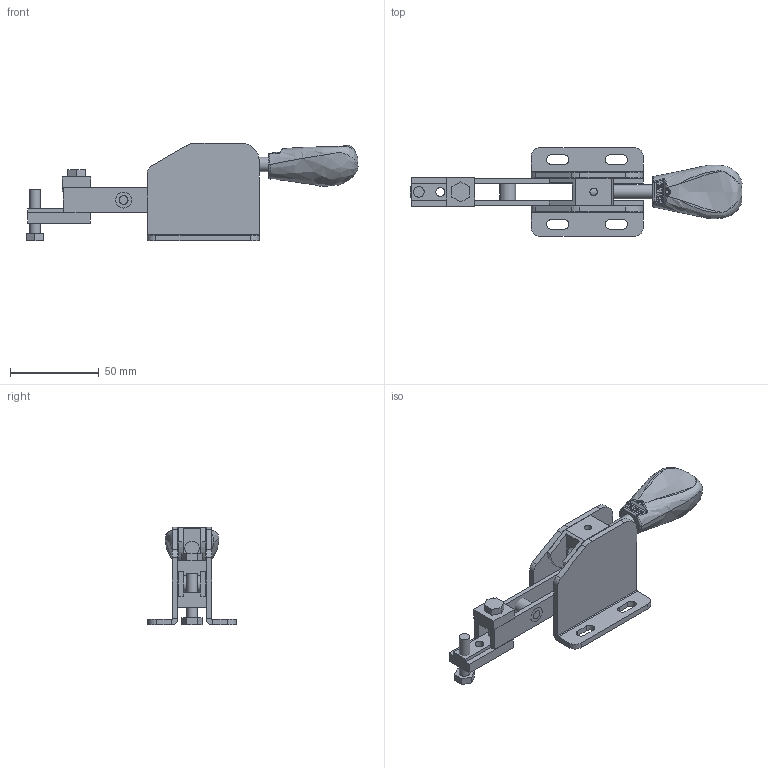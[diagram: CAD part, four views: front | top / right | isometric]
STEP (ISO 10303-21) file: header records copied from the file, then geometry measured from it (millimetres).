
FILE_DESCRIPTION(/* description */ (''),/* implementation_level */ '2;1');
FILE_NAME(/* name */ '\\192.168.1.150\pc03\Inventor\デュアルメカニズムクランプ最終\2017.10月　最新型\ＰＵＤ-22ＳＴ\PUD-25ST-CLAMP.stp',/* time_stamp */ '2024-05-16T09:03:14+09:00',/* author */ ('Backup'),/* organization */ (''),/* preprocessor_version */ 'ST-DEVELOPER v17',/* originating_system */ 'Autodesk Inventor 2019',/* authorisation */ '');
FILE_SCHEMA (('AUTOMOTIVE_DESIGN { 1 0 10303 214 3 1 1 }'));
Length unit declared in the file: millimetre
Products named in the file (11): PUD-25ST; BASE-PART1_____; BASE-PART2_____; SUD-CAM36__; SLIDE-ARM_____; SHAFT; GRIP-FIX; PART-1; PART-2; NEZI-2; RIBET-3
Assembly tree (12 placements, depth 2):
  PUD-25ST
    BASE-PART1_____
    BASE-PART2_____
    SUD-CAM36__
    SLIDE-ARM_____  x2
    SHAFT
    GRIP-FIX
    PART-1
    PART-2
    NEZI-2  x2
    RIBET-3
Bounding box: 186.55 x 49.8 x 55 mm (x, y, z)
Volume: 69824.4 mm3; surface area: 40444 mm2
Topology: 12 solids, 12 shells, 253 faces, 649 edges, 426 vertices
Faces by surface type: plane 151, cylinder 73, bspline 22, sphere 4, torus 2, cone 1
Full cylindrical faces by diameter (mm): 1.306 x1, 4.2 x1, 5 x5, 6 x3, 6.5 x1, 8 x2, 9 x1
Entity records: 13329 total; most frequent: CARTESIAN_POINT 7154, ORIENTED_EDGE 1214, DIRECTION 1192, EDGE_CURVE 607, AXIS2_PLACEMENT_3D 408, VERTEX_POINT 398, LINE 376, VECTOR 376
